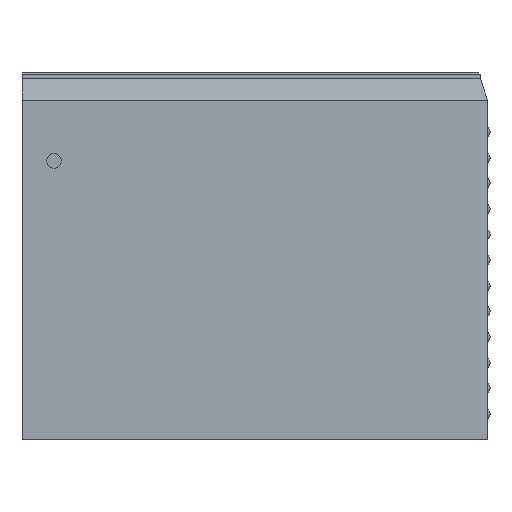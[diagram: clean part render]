
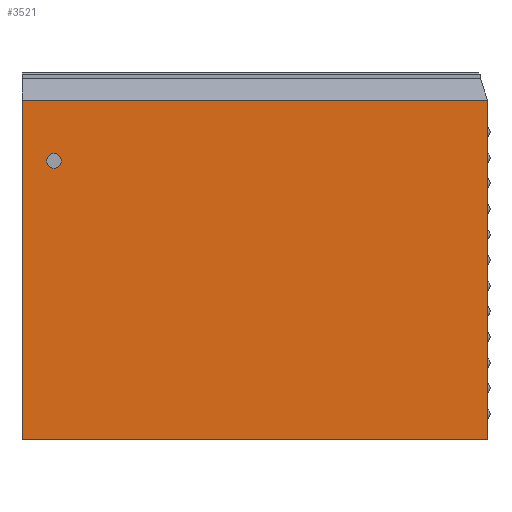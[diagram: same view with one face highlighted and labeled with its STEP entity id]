
A CAD part, front view. The second image highlights one B-rep face of the part: STEP entity #3521.
In plain terms, the highlighted planar face has unit normal (0, -1, 0).
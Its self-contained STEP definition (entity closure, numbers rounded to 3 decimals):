
#24 = VERTEX_POINT('',#25);
#25 = CARTESIAN_POINT('',(145.35,-86.6,-112.));
#32 = PLANE('',#33);
#33 = AXIS2_PLACEMENT_3D('',#34,#35,#36);
#34 = CARTESIAN_POINT('',(141.35,-86.6,-112.));
#35 = DIRECTION('',(0.,0.,1.));
#36 = DIRECTION('',(1.,0.,-0.));
#44 = PLANE('',#45);
#45 = AXIS2_PLACEMENT_3D('',#46,#47,#48);
#46 = CARTESIAN_POINT('',(145.35,-86.6,-112.));
#47 = DIRECTION('',(1.,0.,-0.));
#48 = DIRECTION('',(0.,0.,1.));
#85 = VERTEX_POINT('',#86);
#86 = CARTESIAN_POINT('',(0.,-86.6,-112.));
#100 = PLANE('',#101);
#101 = AXIS2_PLACEMENT_3D('',#102,#103,#104);
#102 = CARTESIAN_POINT('',(0.,-86.6,-112.));
#103 = DIRECTION('',(1.,0.,-0.));
#104 = DIRECTION('',(0.,0.,1.));
#112 = EDGE_CURVE('',#24,#85,#113,.T.);
#113 = SURFACE_CURVE('',#114,(#118,#125),.PCURVE_S1.);
#114 = LINE('',#115,#116);
#115 = CARTESIAN_POINT('',(145.35,-86.6,-112.));
#116 = VECTOR('',#117,1.);
#117 = DIRECTION('',(-1.,0.,0.));
#118 = PCURVE('',#32,#119);
#119 = DEFINITIONAL_REPRESENTATION('',(#120),#124);
#120 = LINE('',#121,#122);
#121 = CARTESIAN_POINT('',(4.,0.));
#122 = VECTOR('',#123,1.);
#123 = DIRECTION('',(-1.,0.));
#124 = ( GEOMETRIC_REPRESENTATION_CONTEXT(2) 
PARAMETRIC_REPRESENTATION_CONTEXT() REPRESENTATION_CONTEXT('2D SPACE',''
  ) );
#125 = PCURVE('',#126,#131);
#126 = PLANE('',#127);
#127 = AXIS2_PLACEMENT_3D('',#128,#129,#130);
#128 = CARTESIAN_POINT('',(141.35,-86.6,-112.));
#129 = DIRECTION('',(-0.,1.,0.));
#130 = DIRECTION('',(0.,0.,1.));
#131 = DEFINITIONAL_REPRESENTATION('',(#132),#136);
#132 = LINE('',#133,#134);
#133 = CARTESIAN_POINT('',(0.,4.));
#134 = VECTOR('',#135,1.);
#135 = DIRECTION('',(0.,-1.));
#136 = ( GEOMETRIC_REPRESENTATION_CONTEXT(2) 
PARAMETRIC_REPRESENTATION_CONTEXT() REPRESENTATION_CONTEXT('2D SPACE',''
  ) );
#491 = EDGE_CURVE('',#24,#492,#494,.T.);
#492 = VERTEX_POINT('',#493);
#493 = CARTESIAN_POINT('',(145.35,-86.6,-6.));
#494 = SURFACE_CURVE('',#495,(#499,#506),.PCURVE_S1.);
#495 = LINE('',#496,#497);
#496 = CARTESIAN_POINT('',(145.35,-86.6,-112.));
#497 = VECTOR('',#498,1.);
#498 = DIRECTION('',(0.,0.,1.));
#499 = PCURVE('',#44,#500);
#500 = DEFINITIONAL_REPRESENTATION('',(#501),#505);
#501 = LINE('',#502,#503);
#502 = CARTESIAN_POINT('',(0.,0.));
#503 = VECTOR('',#504,1.);
#504 = DIRECTION('',(1.,0.));
#505 = ( GEOMETRIC_REPRESENTATION_CONTEXT(2) 
PARAMETRIC_REPRESENTATION_CONTEXT() REPRESENTATION_CONTEXT('2D SPACE',''
  ) );
#506 = PCURVE('',#126,#507);
#507 = DEFINITIONAL_REPRESENTATION('',(#508),#512);
#508 = LINE('',#509,#510);
#509 = CARTESIAN_POINT('',(0.,4.));
#510 = VECTOR('',#511,1.);
#511 = DIRECTION('',(1.,0.));
#512 = ( GEOMETRIC_REPRESENTATION_CONTEXT(2) 
PARAMETRIC_REPRESENTATION_CONTEXT() REPRESENTATION_CONTEXT('2D SPACE',''
  ) );
#2995 = EDGE_CURVE('',#85,#2996,#2998,.T.);
#2996 = VERTEX_POINT('',#2997);
#2997 = CARTESIAN_POINT('',(0.,-86.6,-6.));
#2998 = SURFACE_CURVE('',#2999,(#3003,#3010),.PCURVE_S1.);
#2999 = LINE('',#3000,#3001);
#3000 = CARTESIAN_POINT('',(0.,-86.6,-112.));
#3001 = VECTOR('',#3002,1.);
#3002 = DIRECTION('',(0.,0.,1.));
#3003 = PCURVE('',#100,#3004);
#3004 = DEFINITIONAL_REPRESENTATION('',(#3005),#3009);
#3005 = LINE('',#3006,#3007);
#3006 = CARTESIAN_POINT('',(0.,0.));
#3007 = VECTOR('',#3008,1.);
#3008 = DIRECTION('',(1.,0.));
#3009 = ( GEOMETRIC_REPRESENTATION_CONTEXT(2) 
PARAMETRIC_REPRESENTATION_CONTEXT() REPRESENTATION_CONTEXT('2D SPACE',''
  ) );
#3010 = PCURVE('',#126,#3011);
#3011 = DEFINITIONAL_REPRESENTATION('',(#3012),#3016);
#3012 = LINE('',#3013,#3014);
#3013 = CARTESIAN_POINT('',(0.,-141.35));
#3014 = VECTOR('',#3015,1.);
#3015 = DIRECTION('',(1.,0.));
#3016 = ( GEOMETRIC_REPRESENTATION_CONTEXT(2) 
PARAMETRIC_REPRESENTATION_CONTEXT() REPRESENTATION_CONTEXT('2D SPACE',''
  ) );
#3387 = B_SPLINE_SURFACE_WITH_KNOTS('',1,1,(
    (#3388,#3389)
    ,(#3390,#3391
    )),.UNSPECIFIED.,.F.,.F.,.F.,(2,2),(2,2),(0.,290.7),(0.,1.),
  .PIECEWISE_BEZIER_KNOTS.);
#3388 = CARTESIAN_POINT('',(-145.35,-86.6,-6.));
#3389 = CARTESIAN_POINT('',(-143.15,-84.4,0.6));
#3390 = CARTESIAN_POINT('',(145.35,-86.6,-6.));
#3391 = CARTESIAN_POINT('',(143.15,-84.4,0.6));
#3521 = ADVANCED_FACE('',(#3522,#3548),#126,.F.);
#3522 = FACE_BOUND('',#3523,.F.);
#3523 = EDGE_LOOP('',(#3524,#3525,#3526,#3547));
#3524 = ORIENTED_EDGE('',*,*,#112,.T.);
#3525 = ORIENTED_EDGE('',*,*,#2995,.T.);
#3526 = ORIENTED_EDGE('',*,*,#3527,.F.);
#3527 = EDGE_CURVE('',#492,#2996,#3528,.T.);
#3528 = SURFACE_CURVE('',#3529,(#3533,#3540),.PCURVE_S1.);
#3529 = LINE('',#3530,#3531);
#3530 = CARTESIAN_POINT('',(145.35,-86.6,-6.));
#3531 = VECTOR('',#3532,1.);
#3532 = DIRECTION('',(-1.,0.,0.));
#3533 = PCURVE('',#126,#3534);
#3534 = DEFINITIONAL_REPRESENTATION('',(#3535),#3539);
#3535 = LINE('',#3536,#3537);
#3536 = CARTESIAN_POINT('',(106.,4.));
#3537 = VECTOR('',#3538,1.);
#3538 = DIRECTION('',(0.,-1.));
#3539 = ( GEOMETRIC_REPRESENTATION_CONTEXT(2) 
PARAMETRIC_REPRESENTATION_CONTEXT() REPRESENTATION_CONTEXT('2D SPACE',''
  ) );
#3540 = PCURVE('',#3387,#3541);
#3541 = DEFINITIONAL_REPRESENTATION('',(#3542),#3546);
#3542 = LINE('',#3543,#3544);
#3543 = CARTESIAN_POINT('',(290.7,0.));
#3544 = VECTOR('',#3545,1.);
#3545 = DIRECTION('',(-1.,-0.));
#3546 = ( GEOMETRIC_REPRESENTATION_CONTEXT(2) 
PARAMETRIC_REPRESENTATION_CONTEXT() REPRESENTATION_CONTEXT('2D SPACE',''
  ) );
#3547 = ORIENTED_EDGE('',*,*,#491,.F.);
#3548 = FACE_BOUND('',#3549,.F.);
#3549 = EDGE_LOOP('',(#3550));
#3550 = ORIENTED_EDGE('',*,*,#3551,.F.);
#3551 = EDGE_CURVE('',#3552,#3552,#3554,.T.);
#3552 = VERTEX_POINT('',#3553);
#3553 = CARTESIAN_POINT('',(10.,-86.6,-22.7));
#3554 = SURFACE_CURVE('',#3555,(#3560,#3567),.PCURVE_S1.);
#3555 = CIRCLE('',#3556,2.3);
#3556 = AXIS2_PLACEMENT_3D('',#3557,#3558,#3559);
#3557 = CARTESIAN_POINT('',(10.,-86.6,-25.));
#3558 = DIRECTION('',(0.,1.,0.));
#3559 = DIRECTION('',(0.,-0.,1.));
#3560 = PCURVE('',#126,#3561);
#3561 = DEFINITIONAL_REPRESENTATION('',(#3562),#3566);
#3562 = CIRCLE('',#3563,2.3);
#3563 = AXIS2_PLACEMENT_2D('',#3564,#3565);
#3564 = CARTESIAN_POINT('',(87.,-131.35));
#3565 = DIRECTION('',(1.,0.));
#3566 = ( GEOMETRIC_REPRESENTATION_CONTEXT(2) 
PARAMETRIC_REPRESENTATION_CONTEXT() REPRESENTATION_CONTEXT('2D SPACE',''
  ) );
#3567 = PCURVE('',#3568,#3573);
#3568 = CYLINDRICAL_SURFACE('',#3569,2.3);
#3569 = AXIS2_PLACEMENT_3D('',#3570,#3571,#3572);
#3570 = CARTESIAN_POINT('',(10.,-86.6,-25.));
#3571 = DIRECTION('',(0.,1.,0.));
#3572 = DIRECTION('',(0.,-0.,1.));
#3573 = DEFINITIONAL_REPRESENTATION('',(#3574),#3578);
#3574 = LINE('',#3575,#3576);
#3575 = CARTESIAN_POINT('',(0.,0.));
#3576 = VECTOR('',#3577,1.);
#3577 = DIRECTION('',(1.,0.));
#3578 = ( GEOMETRIC_REPRESENTATION_CONTEXT(2) 
PARAMETRIC_REPRESENTATION_CONTEXT() REPRESENTATION_CONTEXT('2D SPACE',''
  ) );
